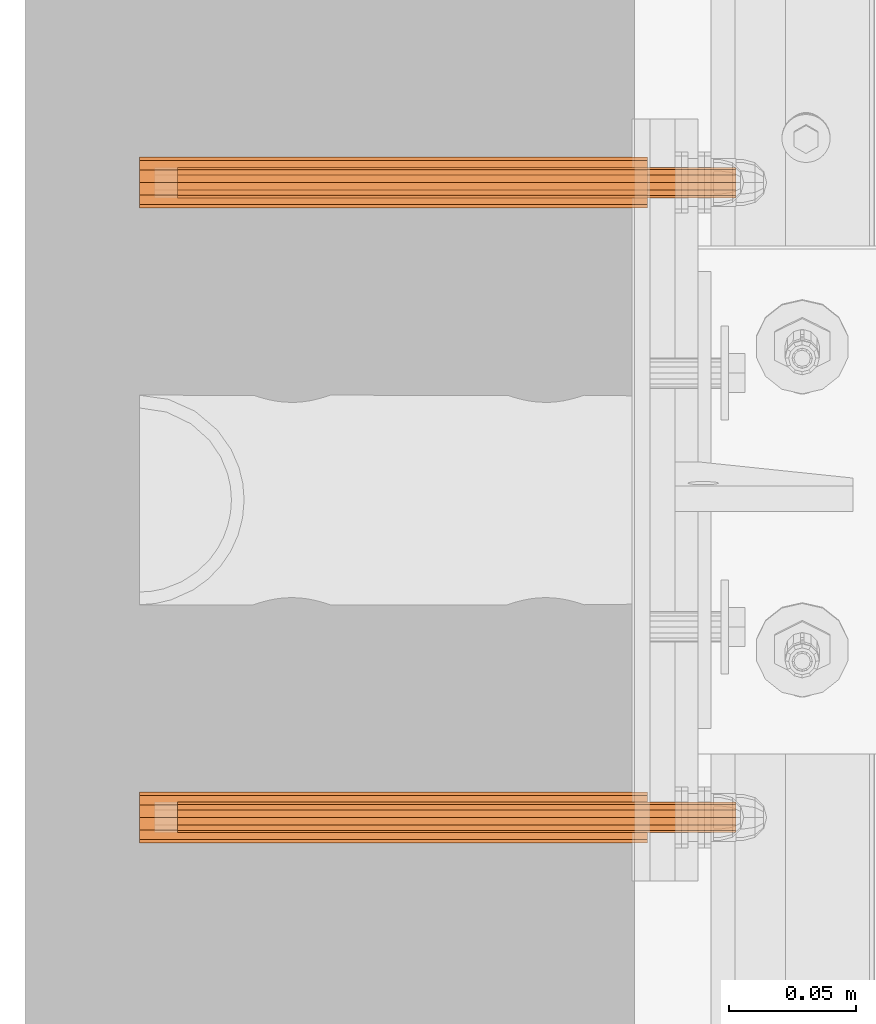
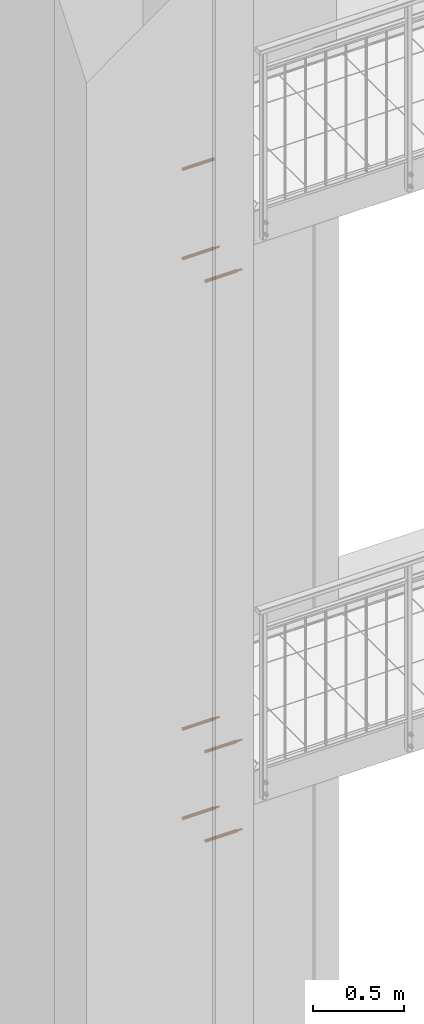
# One storey, part 79 of 162: 13 proxies.
"""IFC2X3 building model written with IfcOpenShell, lengths in millimetres."""

from ifc_helpers import new_model, entity, si_unit, converted_unit, origin_with_axes, place, context, project, spatial, faceted_brep, material, element, save


model = new_model("IFC2X3")

# Units and contexts
model_context = context("Model", 3, precision=1e-09, world=origin_with_axes())
ifc_project = project(units=[si_unit("LENGTHUNIT", "METRE", prefix="MILLI"), si_unit("AREAUNIT", "SQUARE_METRE"), si_unit("VOLUMEUNIT", "CUBIC_METRE"), converted_unit("PLANEANGLEUNIT", "DEGREE", entity("IfcPlaneAngleMeasure", 0.01745329), si_unit("PLANEANGLEUNIT", "RADIAN"), dimensions=[0, 0, 0, 0, 0, 0, 0])], contexts=[model_context])

# Site, building, storey
site_placement = place(None, origin_with_axes())
site = spatial("IfcSite", under=ifc_project, at=site_placement, Name="Hermannstra?e 1a, 60318 Frankfurt", CompositionType="ELEMENT")
building_placement = place(site_placement, origin_with_axes())
building = spatial("IfcBuilding", under=site, at=building_placement, Name="Struktur 1", CompositionType="ELEMENT")
storey_placement = place(building_placement, origin_with_axes())
storey = spatial("IfcBuildingStorey", under=building, at=storey_placement, Name="Default Storey", CompositionType="ELEMENT", Elevation=0.0)

# Proxies
ifc_material_1 = material(Name="A4")
proxy_1_placement = place(None, origin_with_axes())
element("IfcBuildingElementProxy", 1, at=proxy_1_placement, inside=storey, material=ifc_material_1, ObjectType="-", context=model_context, shape_type="Brep", body=[
    faceted_brep([(2343.30936482, 1680.609373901, 11598.999), (2563.30936482, 1680.609373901, 11598.999), (2563.30936482, 1677.609373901, 11599.802847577), (2343.30936482, 1677.609373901, 11599.802847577), (2343.30936482, 1683.609373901, 11599.802847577), (2563.30936482, 1683.609373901, 11599.802847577), (2563.30936482, 1685.805526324, 11607.999), (2563.30936482, 1683.609373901, 11610.195152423), (2563.30936482, 1680.609373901, 11610.999), (2563.30936482, 1677.609373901, 11610.195152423), (2563.30936482, 1675.413221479, 11607.999), (2563.30936482, 1674.609373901, 11604.999), (2563.30936482, 1675.413221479, 11601.999), (2563.30936482, 1685.805526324, 11601.999), (2563.30936482, 1686.609373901, 11604.999), (2343.30936482, 1675.413221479, 11607.999), (2343.30936482, 1677.609373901, 11610.195152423), (2343.30936482, 1680.609373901, 11610.999), (2343.30936482, 1683.609373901, 11610.195152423), (2343.30936482, 1685.805526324, 11607.999), (2343.30936482, 1686.609373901, 11604.999), (2343.30936482, 1685.805526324, 11601.999), (2343.30936482, 1675.413221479, 11601.999), (2343.30936482, 1674.609373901, 11604.999)], [[[0, 1, 2, 3]], [[1, 0, 4, 5]], [[6, 7, 8, 9, 10, 11, 12, 2, 1, 5, 13, 14]], [[15, 16, 17, 18, 19, 20, 21, 4, 0, 3, 22, 23]], [[3, 2, 12, 22]], [[5, 4, 21, 13]], [[11, 23, 22, 12]], [[10, 15, 23, 11]], [[13, 21, 20, 14]], [[16, 9, 8, 17]], [[15, 10, 9, 16]], [[17, 8, 7, 18]], [[14, 20, 19, 6]], [[18, 7, 6, 19]]]),
])
ifc_material_2 = material(Name="Kunststoff")
proxy_2_placement = place(None, origin_with_axes())
element("IfcBuildingElementProxy", 2, at=proxy_2_placement, inside=storey, material=ifc_material_2, ObjectType="-", context=model_context, shape_type="Brep", body=[
    faceted_brep([(2328.30936482, 1671.949119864, 11609.999), (2328.30936482, 1675.609373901, 11613.659254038), (2328.30936482, 1680.609373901, 11614.999), (2328.30936482, 1685.609373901, 11613.659254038), (2328.30936482, 1689.269627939, 11609.999), (2328.30936482, 1690.609373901, 11604.999), (2328.30936482, 1689.269627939, 11599.999), (2328.30936482, 1685.609373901, 11596.338745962), (2328.30936482, 1680.609373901, 11594.999), (2328.30936482, 1675.609373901, 11596.338745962), (2328.30936482, 1671.949119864, 11599.999), (2328.30936482, 1670.609373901, 11604.999), (2528.30936482, 1680.609373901, 11594.999), (2528.30936482, 1675.609373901, 11596.338745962), (2528.30936482, 1685.609373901, 11596.338745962), (2528.30936482, 1689.269627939, 11599.999), (2528.30936482, 1689.269627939, 11609.999), (2528.30936482, 1685.609373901, 11613.659254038), (2528.30936482, 1690.609373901, 11604.999), (2528.30936482, 1680.609373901, 11614.999), (2528.30936482, 1675.609373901, 11613.659254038), (2528.30936482, 1671.949119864, 11609.999), (2528.30936482, 1670.609373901, 11604.999), (2528.30936482, 1671.949119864, 11599.999), (2528.30936482, 1684.859373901, 11612.360215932), (2528.30936482, 1687.970589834, 11609.249), (2528.30936482, 1689.109373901, 11604.999), (2528.30936482, 1687.970589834, 11600.749), (2528.30936482, 1684.859373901, 11597.637784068), (2528.30936482, 1680.609373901, 11596.499), (2528.30936482, 1676.359373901, 11597.637784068), (2528.30936482, 1673.248157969, 11600.749), (2528.30936482, 1672.109373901, 11604.999), (2528.30936482, 1673.248157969, 11609.249), (2528.30936482, 1676.359373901, 11612.360215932), (2528.30936482, 1680.609373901, 11613.499), (2330.30936482, 1684.859373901, 11612.360215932), (2330.30936482, 1680.609373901, 11613.499), (2330.30936482, 1687.970589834, 11609.249), (2330.30936482, 1680.609373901, 11596.499), (2330.30936482, 1676.359373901, 11597.637784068), (2330.30936482, 1684.859373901, 11597.637784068), (2330.30936482, 1673.248157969, 11600.749), (2330.30936482, 1687.970589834, 11600.749), (2330.30936482, 1689.109373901, 11604.999), (2330.30936482, 1676.359373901, 11612.360215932), (2330.30936482, 1673.248157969, 11609.249), (2330.30936482, 1672.109373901, 11604.999)], [[[0, 1, 2, 3, 4, 5, 6, 7, 8, 9, 10, 11]], [[8, 12, 13, 9]], [[7, 14, 12, 8]], [[6, 15, 14, 7]], [[16, 4, 3, 17]], [[5, 18, 15, 6]], [[17, 3, 2, 19]], [[18, 16, 17, 19, 20, 21, 22, 23, 13, 12, 14, 15], [24, 25, 26, 27, 28, 29, 30, 31, 32, 33, 34, 35]], [[18, 5, 4, 16]], [[9, 13, 23, 10]], [[19, 2, 1, 20]], [[36, 24, 35, 37]], [[24, 36, 38, 25]], [[29, 39, 40, 30]], [[39, 29, 28, 41]], [[42, 40, 39, 41, 43, 44, 38, 36, 37, 45, 46, 47]], [[10, 23, 22, 11]], [[20, 1, 0, 21]], [[37, 35, 34, 45]], [[27, 43, 41, 28]], [[26, 44, 43, 27]], [[25, 38, 44, 26]], [[11, 22, 21, 0]], [[30, 40, 42, 31]], [[45, 34, 33, 46]], [[31, 42, 47, 32]], [[46, 33, 32, 47]]]),
])
proxy_3_placement = place(None, origin_with_axes())
element("IfcBuildingElementProxy", 3, at=proxy_3_placement, inside=storey, material=ifc_material_1, ObjectType="-", context=model_context, shape_type="Brep", body=[
    faceted_brep([(2343.30936482, 1930.609373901, 11598.999), (2563.30936482, 1930.609373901, 11598.999), (2563.30936482, 1927.609373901, 11599.802847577), (2343.30936482, 1927.609373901, 11599.802847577), (2343.30936482, 1933.609373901, 11599.802847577), (2563.30936482, 1933.609373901, 11599.802847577), (2563.30936482, 1935.805526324, 11607.999), (2563.30936482, 1933.609373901, 11610.195152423), (2563.30936482, 1930.609373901, 11610.999), (2563.30936482, 1927.609373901, 11610.195152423), (2563.30936482, 1925.413221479, 11607.999), (2563.30936482, 1924.609373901, 11604.999), (2563.30936482, 1925.413221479, 11601.999), (2563.30936482, 1935.805526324, 11601.999), (2563.30936482, 1936.609373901, 11604.999), (2343.30936482, 1925.413221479, 11607.999), (2343.30936482, 1927.609373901, 11610.195152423), (2343.30936482, 1930.609373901, 11610.999), (2343.30936482, 1933.609373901, 11610.195152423), (2343.30936482, 1935.805526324, 11607.999), (2343.30936482, 1936.609373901, 11604.999), (2343.30936482, 1935.805526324, 11601.999), (2343.30936482, 1925.413221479, 11601.999), (2343.30936482, 1924.609373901, 11604.999)], [[[0, 1, 2, 3]], [[1, 0, 4, 5]], [[6, 7, 8, 9, 10, 11, 12, 2, 1, 5, 13, 14]], [[15, 16, 17, 18, 19, 20, 21, 4, 0, 3, 22, 23]], [[3, 2, 12, 22]], [[5, 4, 21, 13]], [[11, 23, 22, 12]], [[10, 15, 23, 11]], [[13, 21, 20, 14]], [[16, 9, 8, 17]], [[15, 10, 9, 16]], [[17, 8, 7, 18]], [[14, 20, 19, 6]], [[18, 7, 6, 19]]]),
])
proxy_4_placement = place(None, origin_with_axes())
element("IfcBuildingElementProxy", 4, at=proxy_4_placement, inside=storey, material=ifc_material_2, ObjectType="-", context=model_context, shape_type="Brep", body=[
    faceted_brep([(2328.30936482, 1921.949119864, 11609.999), (2328.30936482, 1925.609373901, 11613.659254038), (2328.30936482, 1930.609373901, 11614.999), (2328.30936482, 1935.609373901, 11613.659254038), (2328.30936482, 1939.269627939, 11609.999), (2328.30936482, 1940.609373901, 11604.999), (2328.30936482, 1939.269627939, 11599.999), (2328.30936482, 1935.609373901, 11596.338745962), (2328.30936482, 1930.609373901, 11594.999), (2328.30936482, 1925.609373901, 11596.338745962), (2328.30936482, 1921.949119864, 11599.999), (2328.30936482, 1920.609373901, 11604.999), (2528.30936482, 1930.609373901, 11594.999), (2528.30936482, 1925.609373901, 11596.338745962), (2528.30936482, 1935.609373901, 11596.338745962), (2528.30936482, 1939.269627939, 11599.999), (2528.30936482, 1939.269627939, 11609.999), (2528.30936482, 1935.609373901, 11613.659254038), (2528.30936482, 1940.609373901, 11604.999), (2528.30936482, 1930.609373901, 11614.999), (2528.30936482, 1925.609373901, 11613.659254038), (2528.30936482, 1921.949119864, 11609.999), (2528.30936482, 1920.609373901, 11604.999), (2528.30936482, 1921.949119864, 11599.999), (2528.30936482, 1934.859373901, 11612.360215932), (2528.30936482, 1937.970589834, 11609.249), (2528.30936482, 1939.109373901, 11604.999), (2528.30936482, 1937.970589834, 11600.749), (2528.30936482, 1934.859373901, 11597.637784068), (2528.30936482, 1930.609373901, 11596.499), (2528.30936482, 1926.359373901, 11597.637784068), (2528.30936482, 1923.248157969, 11600.749), (2528.30936482, 1922.109373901, 11604.999), (2528.30936482, 1923.248157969, 11609.249), (2528.30936482, 1926.359373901, 11612.360215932), (2528.30936482, 1930.609373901, 11613.499), (2330.30936482, 1934.859373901, 11612.360215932), (2330.30936482, 1930.609373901, 11613.499), (2330.30936482, 1937.970589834, 11609.249), (2330.30936482, 1930.609373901, 11596.499), (2330.30936482, 1926.359373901, 11597.637784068), (2330.30936482, 1934.859373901, 11597.637784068), (2330.30936482, 1923.248157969, 11600.749), (2330.30936482, 1937.970589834, 11600.749), (2330.30936482, 1939.109373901, 11604.999), (2330.30936482, 1926.359373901, 11612.360215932), (2330.30936482, 1923.248157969, 11609.249), (2330.30936482, 1922.109373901, 11604.999)], [[[0, 1, 2, 3, 4, 5, 6, 7, 8, 9, 10, 11]], [[8, 12, 13, 9]], [[7, 14, 12, 8]], [[6, 15, 14, 7]], [[16, 4, 3, 17]], [[5, 18, 15, 6]], [[17, 3, 2, 19]], [[18, 16, 17, 19, 20, 21, 22, 23, 13, 12, 14, 15], [24, 25, 26, 27, 28, 29, 30, 31, 32, 33, 34, 35]], [[18, 5, 4, 16]], [[9, 13, 23, 10]], [[19, 2, 1, 20]], [[36, 24, 35, 37]], [[24, 36, 38, 25]], [[29, 39, 40, 30]], [[39, 29, 28, 41]], [[42, 40, 39, 41, 43, 44, 38, 36, 37, 45, 46, 47]], [[10, 23, 22, 11]], [[20, 1, 0, 21]], [[37, 35, 34, 45]], [[27, 43, 41, 28]], [[26, 44, 43, 27]], [[25, 38, 44, 26]], [[11, 22, 21, 0]], [[30, 40, 42, 31]], [[45, 34, 33, 46]], [[31, 42, 47, 32]], [[46, 33, 32, 47]]]),
])
proxy_5_placement = place(None, origin_with_axes())
element("IfcBuildingElementProxy", 5, at=proxy_5_placement, inside=storey, material=ifc_material_2, ObjectType="-", context=model_context, shape_type="Brep", body=[
    faceted_brep([(2328.30936482, 1675.609373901, 10996.338745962), (2328.30936482, 1671.949119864, 10999.999), (2328.30936482, 1670.609373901, 11004.999), (2328.30936482, 1671.949119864, 11009.999), (2328.30936482, 1675.609373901, 11013.659254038), (2328.30936482, 1680.609373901, 11014.999), (2328.30936482, 1685.609373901, 11013.659254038), (2328.30936482, 1689.269627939, 11009.999), (2328.30936482, 1690.609373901, 11004.999), (2328.30936482, 1689.269627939, 10999.999), (2328.30936482, 1685.609373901, 10996.338745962), (2328.30936482, 1680.609373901, 10994.999), (2528.30936482, 1680.609373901, 11014.999), (2528.30936482, 1675.609373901, 11013.659254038), (2528.30936482, 1685.609373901, 11013.659254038), (2528.30936482, 1689.269627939, 11009.999), (2528.30936482, 1689.269627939, 10999.999), (2528.30936482, 1685.609373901, 10996.338745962), (2528.30936482, 1690.609373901, 11004.999), (2528.30936482, 1680.609373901, 10994.999), (2528.30936482, 1671.949119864, 11009.999), (2528.30936482, 1670.609373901, 11004.999), (2528.30936482, 1671.949119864, 10999.999), (2528.30936482, 1675.609373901, 10996.338745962), (2528.30936482, 1684.859373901, 10997.637784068), (2330.30936482, 1684.859373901, 10997.637784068), (2330.30936482, 1680.609373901, 10996.499), (2528.30936482, 1680.609373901, 10996.499), (2528.30936482, 1687.970589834, 11000.749), (2330.30936482, 1687.970589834, 11000.749), (2330.30936482, 1680.609373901, 11013.499), (2528.30936482, 1680.609373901, 11013.499), (2528.30936482, 1676.359373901, 11012.360215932), (2330.30936482, 1676.359373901, 11012.360215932), (2330.30936482, 1684.859373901, 11012.360215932), (2528.30936482, 1684.859373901, 11012.360215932), (2330.30936482, 1673.248157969, 11009.249), (2330.30936482, 1672.109373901, 11004.999), (2330.30936482, 1673.248157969, 11000.749), (2330.30936482, 1676.359373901, 10997.637784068), (2330.30936482, 1689.109373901, 11004.999), (2330.30936482, 1687.970589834, 11009.249), (2528.30936482, 1676.359373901, 10997.637784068), (2528.30936482, 1687.970589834, 11009.249), (2528.30936482, 1689.109373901, 11004.999), (2528.30936482, 1673.248157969, 11009.249), (2528.30936482, 1673.248157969, 11000.749), (2528.30936482, 1672.109373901, 11004.999)], [[[0, 1, 2, 3, 4, 5, 6, 7, 8, 9, 10, 11]], [[12, 5, 4, 13]], [[14, 6, 5, 12]], [[15, 7, 6, 14]], [[9, 16, 17, 10]], [[18, 8, 7, 15]], [[10, 17, 19, 11]], [[16, 18, 15, 14, 12, 13, 20, 21, 22, 23, 19, 17]], [[8, 18, 16, 9]], [[13, 4, 3, 20]], [[11, 19, 23, 0]], [[24, 25, 26, 27]], [[25, 24, 28, 29]], [[30, 31, 32, 33]], [[31, 30, 34, 35]], [[33, 36, 37, 38, 39, 26, 25, 29, 40, 41, 34, 30]], [[20, 3, 2, 21]], [[0, 23, 22, 1]], [[27, 26, 39, 42]], [[41, 43, 35, 34]], [[40, 44, 43, 41]], [[29, 28, 44, 40]], [[21, 2, 1, 22]], [[33, 32, 45, 36]], [[42, 39, 38, 46]], [[36, 45, 47, 37]], [[46, 38, 37, 47]]]),
])
proxy_6_placement = place(None, origin_with_axes())
element("IfcBuildingElementProxy", 6, at=proxy_6_placement, inside=storey, material=ifc_material_1, ObjectType="-", context=model_context, shape_type="Brep", body=[
    faceted_brep([(2563.30936482, 1680.609373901, 11010.999), (2343.30936482, 1680.609373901, 11010.999), (2343.30936482, 1677.609373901, 11010.195152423), (2563.30936482, 1677.609373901, 11010.195152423), (2563.30936482, 1683.609373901, 11010.195152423), (2343.30936482, 1683.609373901, 11010.195152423), (2563.30936482, 1683.609373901, 10999.802847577), (2563.30936482, 1685.805526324, 11001.999), (2563.30936482, 1686.609373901, 11004.999), (2563.30936482, 1685.805526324, 11007.999), (2563.30936482, 1675.413221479, 11007.999), (2563.30936482, 1674.609373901, 11004.999), (2563.30936482, 1675.413221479, 11001.999), (2563.30936482, 1677.609373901, 10999.802847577), (2563.30936482, 1680.609373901, 10998.999), (2343.30936482, 1677.609373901, 10999.802847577), (2343.30936482, 1675.413221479, 11001.999), (2343.30936482, 1674.609373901, 11004.999), (2343.30936482, 1675.413221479, 11007.999), (2343.30936482, 1685.805526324, 11007.999), (2343.30936482, 1686.609373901, 11004.999), (2343.30936482, 1685.805526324, 11001.999), (2343.30936482, 1683.609373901, 10999.802847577), (2343.30936482, 1680.609373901, 10998.999)], [[[0, 1, 2, 3]], [[1, 0, 4, 5]], [[6, 7, 8, 9, 4, 0, 3, 10, 11, 12, 13, 14]], [[15, 16, 17, 18, 2, 1, 5, 19, 20, 21, 22, 23]], [[3, 2, 18, 10]], [[5, 4, 9, 19]], [[17, 11, 10, 18]], [[16, 12, 11, 17]], [[19, 9, 8, 20]], [[13, 15, 23, 14]], [[12, 16, 15, 13]], [[14, 23, 22, 6]], [[20, 8, 7, 21]], [[6, 22, 21, 7]]]),
])
proxy_7_placement = place(None, origin_with_axes())
element("IfcBuildingElementProxy", 7, at=proxy_7_placement, inside=storey, material=ifc_material_2, ObjectType="-", context=model_context, shape_type="Brep", body=[
    faceted_brep([(2328.30936482, 1925.609373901, 10996.338745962), (2328.30936482, 1921.949119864, 10999.999), (2328.30936482, 1920.609373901, 11004.999), (2328.30936482, 1921.949119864, 11009.999), (2328.30936482, 1925.609373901, 11013.659254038), (2328.30936482, 1930.609373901, 11014.999), (2328.30936482, 1935.609373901, 11013.659254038), (2328.30936482, 1939.269627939, 11009.999), (2328.30936482, 1940.609373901, 11004.999), (2328.30936482, 1939.269627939, 10999.999), (2328.30936482, 1935.609373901, 10996.338745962), (2328.30936482, 1930.609373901, 10994.999), (2528.30936482, 1930.609373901, 11014.999), (2528.30936482, 1925.609373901, 11013.659254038), (2528.30936482, 1935.609373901, 11013.659254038), (2528.30936482, 1939.269627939, 11009.999), (2528.30936482, 1939.269627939, 10999.999), (2528.30936482, 1935.609373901, 10996.338745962), (2528.30936482, 1940.609373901, 11004.999), (2528.30936482, 1930.609373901, 10994.999), (2528.30936482, 1921.949119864, 11009.999), (2528.30936482, 1920.609373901, 11004.999), (2528.30936482, 1921.949119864, 10999.999), (2528.30936482, 1925.609373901, 10996.338745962), (2528.30936482, 1934.859373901, 10997.637784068), (2330.30936482, 1934.859373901, 10997.637784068), (2330.30936482, 1930.609373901, 10996.499), (2528.30936482, 1930.609373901, 10996.499), (2528.30936482, 1937.970589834, 11000.749), (2330.30936482, 1937.970589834, 11000.749), (2330.30936482, 1930.609373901, 11013.499), (2528.30936482, 1930.609373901, 11013.499), (2528.30936482, 1926.359373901, 11012.360215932), (2330.30936482, 1926.359373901, 11012.360215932), (2330.30936482, 1934.859373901, 11012.360215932), (2528.30936482, 1934.859373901, 11012.360215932), (2330.30936482, 1923.248157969, 11009.249), (2330.30936482, 1922.109373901, 11004.999), (2330.30936482, 1923.248157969, 11000.749), (2330.30936482, 1926.359373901, 10997.637784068), (2330.30936482, 1939.109373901, 11004.999), (2330.30936482, 1937.970589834, 11009.249), (2528.30936482, 1926.359373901, 10997.637784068), (2528.30936482, 1937.970589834, 11009.249), (2528.30936482, 1939.109373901, 11004.999), (2528.30936482, 1923.248157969, 11009.249), (2528.30936482, 1923.248157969, 11000.749), (2528.30936482, 1922.109373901, 11004.999)], [[[0, 1, 2, 3, 4, 5, 6, 7, 8, 9, 10, 11]], [[12, 5, 4, 13]], [[14, 6, 5, 12]], [[15, 7, 6, 14]], [[9, 16, 17, 10]], [[18, 8, 7, 15]], [[10, 17, 19, 11]], [[16, 18, 15, 14, 12, 13, 20, 21, 22, 23, 19, 17]], [[8, 18, 16, 9]], [[13, 4, 3, 20]], [[11, 19, 23, 0]], [[24, 25, 26, 27]], [[25, 24, 28, 29]], [[30, 31, 32, 33]], [[31, 30, 34, 35]], [[33, 36, 37, 38, 39, 26, 25, 29, 40, 41, 34, 30]], [[20, 3, 2, 21]], [[0, 23, 22, 1]], [[27, 26, 39, 42]], [[41, 43, 35, 34]], [[40, 44, 43, 41]], [[29, 28, 44, 40]], [[21, 2, 1, 22]], [[33, 32, 45, 36]], [[42, 39, 38, 46]], [[36, 45, 47, 37]], [[46, 38, 37, 47]]]),
])
proxy_8_placement = place(None, origin_with_axes())
element("IfcBuildingElementProxy", 8, at=proxy_8_placement, inside=storey, material=ifc_material_1, ObjectType="-", context=model_context, shape_type="Brep", body=[
    faceted_brep([(2563.30936482, 1930.609373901, 11010.999), (2343.30936482, 1930.609373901, 11010.999), (2343.30936482, 1927.609373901, 11010.195152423), (2563.30936482, 1927.609373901, 11010.195152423), (2563.30936482, 1933.609373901, 11010.195152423), (2343.30936482, 1933.609373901, 11010.195152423), (2563.30936482, 1933.609373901, 10999.802847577), (2563.30936482, 1935.805526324, 11001.999), (2563.30936482, 1936.609373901, 11004.999), (2563.30936482, 1935.805526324, 11007.999), (2563.30936482, 1925.413221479, 11007.999), (2563.30936482, 1924.609373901, 11004.999), (2563.30936482, 1925.413221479, 11001.999), (2563.30936482, 1927.609373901, 10999.802847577), (2563.30936482, 1930.609373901, 10998.999), (2343.30936482, 1927.609373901, 10999.802847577), (2343.30936482, 1925.413221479, 11001.999), (2343.30936482, 1924.609373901, 11004.999), (2343.30936482, 1925.413221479, 11007.999), (2343.30936482, 1935.805526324, 11007.999), (2343.30936482, 1936.609373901, 11004.999), (2343.30936482, 1935.805526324, 11001.999), (2343.30936482, 1933.609373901, 10999.802847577), (2343.30936482, 1930.609373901, 10998.999)], [[[0, 1, 2, 3]], [[1, 0, 4, 5]], [[6, 7, 8, 9, 4, 0, 3, 10, 11, 12, 13, 14]], [[15, 16, 17, 18, 2, 1, 5, 19, 20, 21, 22, 23]], [[3, 2, 18, 10]], [[5, 4, 9, 19]], [[17, 11, 10, 18]], [[16, 12, 11, 17]], [[19, 9, 8, 20]], [[13, 15, 23, 14]], [[12, 16, 15, 13]], [[14, 23, 22, 6]], [[20, 8, 7, 21]], [[6, 22, 21, 7]]]),
])
proxy_9_placement = place(None, origin_with_axes())
element("IfcBuildingElementProxy", 9, at=proxy_9_placement, inside=storey, material=ifc_material_1, ObjectType="-", context=model_context, shape_type="Brep", body=[
    faceted_brep([(2563.310071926, 1930.610081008, 14767.999), (2343.310071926, 1930.610081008, 14767.999), (2343.310071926, 1927.610081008, 14767.195152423), (2563.310071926, 1927.610081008, 14767.195152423), (2563.310071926, 1933.610081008, 14767.195152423), (2343.310071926, 1933.610081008, 14767.195152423), (2563.310071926, 1933.610081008, 14756.802847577), (2563.310071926, 1935.806233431, 14758.999), (2563.310071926, 1936.610081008, 14761.999), (2563.310071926, 1935.806233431, 14764.999), (2563.310071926, 1925.413928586, 14764.999), (2563.310071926, 1924.610081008, 14761.999), (2563.310071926, 1925.413928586, 14758.999), (2563.310071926, 1927.610081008, 14756.802847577), (2563.310071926, 1930.610081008, 14755.999), (2343.310071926, 1927.610081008, 14756.802847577), (2343.310071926, 1925.413928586, 14758.999), (2343.310071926, 1924.610081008, 14761.999), (2343.310071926, 1925.413928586, 14764.999), (2343.310071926, 1935.806233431, 14764.999), (2343.310071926, 1936.610081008, 14761.999), (2343.310071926, 1935.806233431, 14758.999), (2343.310071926, 1933.610081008, 14756.802847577), (2343.310071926, 1930.610081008, 14755.999)], [[[0, 1, 2, 3]], [[1, 0, 4, 5]], [[6, 7, 8, 9, 4, 0, 3, 10, 11, 12, 13, 14]], [[15, 16, 17, 18, 2, 1, 5, 19, 20, 21, 22, 23]], [[3, 2, 18, 10]], [[5, 4, 9, 19]], [[17, 11, 10, 18]], [[16, 12, 11, 17]], [[19, 9, 8, 20]], [[13, 15, 23, 14]], [[12, 16, 15, 13]], [[14, 23, 22, 6]], [[20, 8, 7, 21]], [[6, 22, 21, 7]]]),
])
proxy_10_placement = place(None, origin_with_axes())
element("IfcBuildingElementProxy", 10, at=proxy_10_placement, inside=storey, material=ifc_material_2, ObjectType="-", context=model_context, shape_type="Brep", body=[
    faceted_brep([(2328.310071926, 1925.610081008, 14753.338745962), (2328.310071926, 1921.94982697, 14756.999), (2328.310071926, 1920.610081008, 14761.999), (2328.310071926, 1921.94982697, 14766.999), (2328.310071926, 1925.610081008, 14770.659254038), (2328.310071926, 1930.610081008, 14771.999), (2328.310071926, 1935.610081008, 14770.659254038), (2328.310071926, 1939.270335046, 14766.999), (2328.310071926, 1940.610081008, 14761.999), (2328.310071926, 1939.270335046, 14756.999), (2328.310071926, 1935.610081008, 14753.338745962), (2328.310071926, 1930.610081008, 14751.999), (2528.310071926, 1930.610081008, 14771.999), (2528.310071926, 1925.610081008, 14770.659254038), (2528.310071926, 1935.610081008, 14770.659254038), (2528.310071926, 1939.270335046, 14766.999), (2528.310071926, 1939.270335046, 14756.999), (2528.310071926, 1935.610081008, 14753.338745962), (2528.310071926, 1940.610081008, 14761.999), (2528.310071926, 1930.610081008, 14751.999), (2528.310071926, 1921.94982697, 14766.999), (2528.310071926, 1920.610081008, 14761.999), (2528.310071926, 1921.94982697, 14756.999), (2528.310071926, 1925.610081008, 14753.338745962), (2528.310071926, 1934.860081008, 14754.637784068), (2330.310071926, 1934.860081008, 14754.637784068), (2330.310071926, 1930.610081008, 14753.499), (2528.310071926, 1930.610081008, 14753.499), (2528.310071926, 1937.97129694, 14757.749), (2330.310071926, 1937.97129694, 14757.749), (2330.310071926, 1930.610081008, 14770.499), (2528.310071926, 1930.610081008, 14770.499), (2528.310071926, 1926.360081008, 14769.360215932), (2330.310071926, 1926.360081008, 14769.360215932), (2330.310071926, 1934.860081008, 14769.360215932), (2528.310071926, 1934.860081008, 14769.360215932), (2330.310071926, 1923.248865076, 14766.249), (2330.310071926, 1922.110081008, 14761.999), (2330.310071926, 1923.248865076, 14757.749), (2330.310071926, 1926.360081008, 14754.637784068), (2330.310071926, 1939.110081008, 14761.999), (2330.310071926, 1937.97129694, 14766.249), (2528.310071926, 1926.360081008, 14754.637784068), (2528.310071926, 1937.97129694, 14766.249), (2528.310071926, 1939.110081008, 14761.999), (2528.310071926, 1923.248865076, 14766.249), (2528.310071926, 1923.248865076, 14757.749), (2528.310071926, 1922.110081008, 14761.999)], [[[0, 1, 2, 3, 4, 5, 6, 7, 8, 9, 10, 11]], [[12, 5, 4, 13]], [[14, 6, 5, 12]], [[15, 7, 6, 14]], [[9, 16, 17, 10]], [[18, 8, 7, 15]], [[10, 17, 19, 11]], [[16, 18, 15, 14, 12, 13, 20, 21, 22, 23, 19, 17]], [[8, 18, 16, 9]], [[13, 4, 3, 20]], [[11, 19, 23, 0]], [[24, 25, 26, 27]], [[25, 24, 28, 29]], [[30, 31, 32, 33]], [[31, 30, 34, 35]], [[33, 36, 37, 38, 39, 26, 25, 29, 40, 41, 34, 30]], [[20, 3, 2, 21]], [[0, 23, 22, 1]], [[27, 26, 39, 42]], [[41, 43, 35, 34]], [[40, 44, 43, 41]], [[29, 28, 44, 40]], [[21, 2, 1, 22]], [[33, 32, 45, 36]], [[42, 39, 38, 46]], [[36, 45, 47, 37]], [[46, 38, 37, 47]]]),
])
proxy_11_placement = place(None, origin_with_axes())
element("IfcBuildingElementProxy", 11, at=proxy_11_placement, inside=storey, material=ifc_material_1, ObjectType="-", context=model_context, shape_type="Brep", body=[
    faceted_brep([(2563.310071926, 1680.610081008, 14767.999), (2343.310071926, 1680.610081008, 14767.999), (2343.310071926, 1677.610081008, 14767.195152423), (2563.310071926, 1677.610081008, 14767.195152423), (2563.310071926, 1683.610081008, 14767.195152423), (2343.310071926, 1683.610081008, 14767.195152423), (2563.310071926, 1683.610081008, 14756.802847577), (2563.310071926, 1685.806233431, 14758.999), (2563.310071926, 1686.610081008, 14761.999), (2563.310071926, 1685.806233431, 14764.999), (2563.310071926, 1675.413928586, 14764.999), (2563.310071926, 1674.610081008, 14761.999), (2563.310071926, 1675.413928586, 14758.999), (2563.310071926, 1677.610081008, 14756.802847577), (2563.310071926, 1680.610081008, 14755.999), (2343.310071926, 1677.610081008, 14756.802847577), (2343.310071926, 1675.413928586, 14758.999), (2343.310071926, 1674.610081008, 14761.999), (2343.310071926, 1675.413928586, 14764.999), (2343.310071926, 1685.806233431, 14764.999), (2343.310071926, 1686.610081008, 14761.999), (2343.310071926, 1685.806233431, 14758.999), (2343.310071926, 1683.610081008, 14756.802847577), (2343.310071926, 1680.610081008, 14755.999)], [[[0, 1, 2, 3]], [[1, 0, 4, 5]], [[6, 7, 8, 9, 4, 0, 3, 10, 11, 12, 13, 14]], [[15, 16, 17, 18, 2, 1, 5, 19, 20, 21, 22, 23]], [[3, 2, 18, 10]], [[5, 4, 9, 19]], [[17, 11, 10, 18]], [[16, 12, 11, 17]], [[19, 9, 8, 20]], [[13, 15, 23, 14]], [[12, 16, 15, 13]], [[14, 23, 22, 6]], [[20, 8, 7, 21]], [[6, 22, 21, 7]]]),
])
proxy_12_placement = place(None, origin_with_axes())
element("IfcBuildingElementProxy", 12, at=proxy_12_placement, inside=storey, material=ifc_material_2, ObjectType="-", context=model_context, shape_type="Brep", body=[
    faceted_brep([(2328.310071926, 1675.610081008, 14753.338745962), (2328.310071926, 1671.94982697, 14756.999), (2328.310071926, 1670.610081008, 14761.999), (2328.310071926, 1671.94982697, 14766.999), (2328.310071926, 1675.610081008, 14770.659254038), (2328.310071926, 1680.610081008, 14771.999), (2328.310071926, 1685.610081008, 14770.659254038), (2328.310071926, 1689.270335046, 14766.999), (2328.310071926, 1690.610081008, 14761.999), (2328.310071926, 1689.270335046, 14756.999), (2328.310071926, 1685.610081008, 14753.338745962), (2328.310071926, 1680.610081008, 14751.999), (2528.310071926, 1680.610081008, 14771.999), (2528.310071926, 1675.610081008, 14770.659254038), (2528.310071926, 1685.610081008, 14770.659254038), (2528.310071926, 1689.270335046, 14766.999), (2528.310071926, 1689.270335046, 14756.999), (2528.310071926, 1685.610081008, 14753.338745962), (2528.310071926, 1690.610081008, 14761.999), (2528.310071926, 1680.610081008, 14751.999), (2528.310071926, 1671.94982697, 14766.999), (2528.310071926, 1670.610081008, 14761.999), (2528.310071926, 1671.94982697, 14756.999), (2528.310071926, 1675.610081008, 14753.338745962), (2528.310071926, 1684.860081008, 14754.637784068), (2330.310071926, 1684.860081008, 14754.637784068), (2330.310071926, 1680.610081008, 14753.499), (2528.310071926, 1680.610081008, 14753.499), (2528.310071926, 1687.97129694, 14757.749), (2330.310071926, 1687.97129694, 14757.749), (2330.310071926, 1680.610081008, 14770.499), (2528.310071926, 1680.610081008, 14770.499), (2528.310071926, 1676.360081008, 14769.360215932), (2330.310071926, 1676.360081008, 14769.360215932), (2330.310071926, 1684.860081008, 14769.360215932), (2528.310071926, 1684.860081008, 14769.360215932), (2330.310071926, 1673.248865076, 14766.249), (2330.310071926, 1672.110081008, 14761.999), (2330.310071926, 1673.248865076, 14757.749), (2330.310071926, 1676.360081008, 14754.637784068), (2330.310071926, 1689.110081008, 14761.999), (2330.310071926, 1687.97129694, 14766.249), (2528.310071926, 1676.360081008, 14754.637784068), (2528.310071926, 1687.97129694, 14766.249), (2528.310071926, 1689.110081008, 14761.999), (2528.310071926, 1673.248865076, 14766.249), (2528.310071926, 1673.248865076, 14757.749), (2528.310071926, 1672.110081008, 14761.999)], [[[0, 1, 2, 3, 4, 5, 6, 7, 8, 9, 10, 11]], [[12, 5, 4, 13]], [[14, 6, 5, 12]], [[15, 7, 6, 14]], [[9, 16, 17, 10]], [[18, 8, 7, 15]], [[10, 17, 19, 11]], [[16, 18, 15, 14, 12, 13, 20, 21, 22, 23, 19, 17]], [[8, 18, 16, 9]], [[13, 4, 3, 20]], [[11, 19, 23, 0]], [[24, 25, 26, 27]], [[25, 24, 28, 29]], [[30, 31, 32, 33]], [[31, 30, 34, 35]], [[33, 36, 37, 38, 39, 26, 25, 29, 40, 41, 34, 30]], [[20, 3, 2, 21]], [[0, 23, 22, 1]], [[27, 26, 39, 42]], [[41, 43, 35, 34]], [[40, 44, 43, 41]], [[29, 28, 44, 40]], [[21, 2, 1, 22]], [[33, 32, 45, 36]], [[42, 39, 38, 46]], [[36, 45, 47, 37]], [[46, 38, 37, 47]]]),
])
proxy_13_placement = place(None, origin_with_axes())
element("IfcBuildingElementProxy", 13, at=proxy_13_placement, inside=storey, material=ifc_material_2, ObjectType="-", context=model_context, shape_type="Brep", body=[
    faceted_brep([(2328.310071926, 1921.94982697, 15366.999), (2328.310071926, 1925.610081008, 15370.659254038), (2328.310071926, 1930.610081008, 15371.999), (2328.310071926, 1935.610081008, 15370.659254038), (2328.310071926, 1939.270335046, 15366.999), (2328.310071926, 1940.610081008, 15361.999), (2328.310071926, 1939.270335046, 15356.999), (2328.310071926, 1935.610081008, 15353.338745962), (2328.310071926, 1930.610081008, 15351.999), (2328.310071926, 1925.610081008, 15353.338745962), (2328.310071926, 1921.94982697, 15356.999), (2328.310071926, 1920.610081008, 15361.999), (2528.310071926, 1930.610081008, 15351.999), (2528.310071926, 1925.610081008, 15353.338745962), (2528.310071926, 1935.610081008, 15353.338745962), (2528.310071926, 1939.270335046, 15356.999), (2528.310071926, 1939.270335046, 15366.999), (2528.310071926, 1935.610081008, 15370.659254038), (2528.310071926, 1940.610081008, 15361.999), (2528.310071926, 1930.610081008, 15371.999), (2528.310071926, 1925.610081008, 15370.659254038), (2528.310071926, 1921.94982697, 15366.999), (2528.310071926, 1920.610081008, 15361.999), (2528.310071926, 1921.94982697, 15356.999), (2528.310071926, 1934.860081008, 15369.360215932), (2528.310071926, 1937.97129694, 15366.249), (2528.310071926, 1939.110081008, 15361.999), (2528.310071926, 1937.97129694, 15357.749), (2528.310071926, 1934.860081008, 15354.637784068), (2528.310071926, 1930.610081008, 15353.499), (2528.310071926, 1926.360081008, 15354.637784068), (2528.310071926, 1923.248865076, 15357.749), (2528.310071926, 1922.110081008, 15361.999), (2528.310071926, 1923.248865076, 15366.249), (2528.310071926, 1926.360081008, 15369.360215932), (2528.310071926, 1930.610081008, 15370.499), (2330.310071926, 1934.860081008, 15369.360215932), (2330.310071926, 1930.610081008, 15370.499), (2330.310071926, 1937.97129694, 15366.249), (2330.310071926, 1930.610081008, 15353.499), (2330.310071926, 1926.360081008, 15354.637784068), (2330.310071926, 1934.860081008, 15354.637784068), (2330.310071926, 1923.248865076, 15357.749), (2330.310071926, 1937.97129694, 15357.749), (2330.310071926, 1939.110081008, 15361.999), (2330.310071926, 1926.360081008, 15369.360215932), (2330.310071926, 1923.248865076, 15366.249), (2330.310071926, 1922.110081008, 15361.999)], [[[0, 1, 2, 3, 4, 5, 6, 7, 8, 9, 10, 11]], [[8, 12, 13, 9]], [[7, 14, 12, 8]], [[6, 15, 14, 7]], [[16, 4, 3, 17]], [[5, 18, 15, 6]], [[17, 3, 2, 19]], [[18, 16, 17, 19, 20, 21, 22, 23, 13, 12, 14, 15], [24, 25, 26, 27, 28, 29, 30, 31, 32, 33, 34, 35]], [[18, 5, 4, 16]], [[9, 13, 23, 10]], [[19, 2, 1, 20]], [[36, 24, 35, 37]], [[24, 36, 38, 25]], [[29, 39, 40, 30]], [[39, 29, 28, 41]], [[42, 40, 39, 41, 43, 44, 38, 36, 37, 45, 46, 47]], [[10, 23, 22, 11]], [[20, 1, 0, 21]], [[37, 35, 34, 45]], [[27, 43, 41, 28]], [[26, 44, 43, 27]], [[25, 38, 44, 26]], [[11, 22, 21, 0]], [[30, 40, 42, 31]], [[45, 34, 33, 46]], [[31, 42, 47, 32]], [[46, 33, 32, 47]]]),
])

save(model, "model.ifc")
